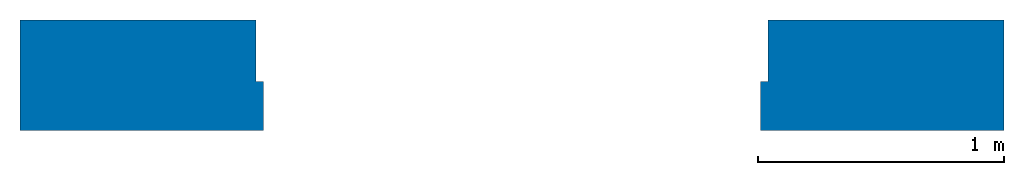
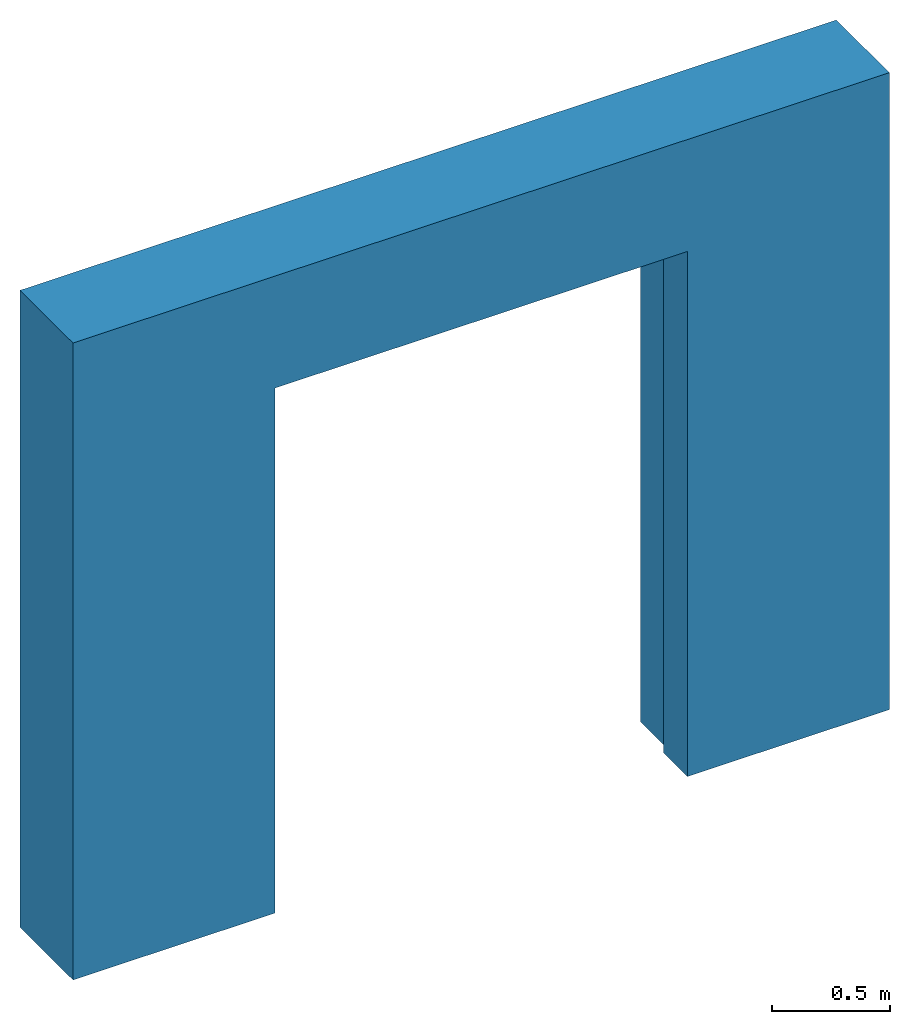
# One storey: 1 wall, 1 opening.
"""IFC4 building model written with IfcOpenShell, lengths in metres."""

from ifc_helpers import new_model, entity, si_unit, converted_unit, derived_unit, frame, frame_2d, origin, origin_with_axes, place, context, subcontext, project, spatial, polyline, rectangle, outline, extrude, material, layer, layer_set, layer_usage, element, save


model = new_model("IFC4")

# Units and contexts
model_context = context("Model", 3, precision=1e-05, world=origin())
body_context = subcontext(model_context, "Body", "Model", "MODEL_VIEW")
ifc_project = project(units=[si_unit("LENGTHUNIT", "METRE"), si_unit("AREAUNIT", "SQUARE_METRE"), si_unit("VOLUMEUNIT", "CUBIC_METRE"), si_unit("MASSUNIT", "GRAM", prefix="KILO"), converted_unit("PLANEANGLEUNIT", "DEGREE", entity("IfcPlaneAngleMeasure", 0.0174532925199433), si_unit("PLANEANGLEUNIT", "RADIAN"), dimensions=[0, 0, 0, 0, 0, 0, 0]), derived_unit("THERMALTRANSMITTANCEUNIT", [(si_unit("POWERUNIT", "WATT"), 1), (si_unit("THERMODYNAMICTEMPERATUREUNIT", "KELVIN"), -1), (si_unit("LENGTHUNIT", "METRE"), -2)]), derived_unit("VOLUMETRICFLOWRATEUNIT", [(si_unit("LENGTHUNIT", "METRE"), 3), (converted_unit("TIMEUNIT", "hour", entity("IfcTimeMeasure", 3600.0), si_unit("TIMEUNIT", "SECOND"), dimensions=[0, 0, 1, 0, 0, 0, 0]), -1), (si_unit("LENGTHUNIT", "METRE"), -1)])], contexts=[model_context])

# Site, building, storey
site_placement = place(None, origin())
site = spatial("IfcSite", under=ifc_project, at=site_placement, Name="Liegenschaft", CompositionType="ELEMENT")
building_placement = place(site_placement, origin())
building = spatial("IfcBuilding", under=site, at=building_placement, Name="Gebäude", CompositionType="ELEMENT")
storey_placement = place(building_placement, origin())
storey = spatial("IfcBuildingStorey", under=building, at=storey_placement, Name="Geschoss 02", CompositionType="ELEMENT", Elevation=0.0)

# Wall, opening
ifc_material_1 = material(Name="C20/25")
ifc_layer_1 = layer(ifc_material_1, 0.25)
ifc_material_2 = material()
ifc_layer_2 = layer(ifc_material_2, 0.2)
ifc_layer_set = layer_set([ifc_layer_1, ifc_layer_2])
ifc_layer_usage = layer_usage(ifc_layer_set, "AXIS2", "POSITIVE", -0.450000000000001)
wall_placement = place(storey_placement, frame((263.348222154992, 1.94253790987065, 0.3), z_axis=(0.0, 0.0, 1.0), x_axis=(-1.0, 1.13686837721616e-16, 0.0)))
wall = element("IfcWall", 1, at=wall_placement, inside=storey, material=ifc_layer_usage, Name="WA_01", context=body_context, shape_type="SweptSolid", body=[
    extrude(rectangle(XDim=4.0, YDim=0.450000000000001, at=frame_2d((2.0, 0.225000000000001), x_axis=(1.0, 0.0))), origin_with_axes(), (0.0, 0.0, 1.0), 3.3),
])
opening_placement = place(wall_placement, frame((0.96, 0.0, 0.0), z_axis=(0.0, 1.0, 0.0), x_axis=(0.0, 0.0, 1.0)))
element("IfcOpeningElement", 2, at=opening_placement, cuts=wall, Name="Türöffnung", ObjectType="Opening", context=body_context, shape_type="SweptSolid", body=[
    extrude(outline(polyline([(0.0, 2.08), (2.75, 2.08), (2.75, 0.0), (0.0, 0.0), (0.0, 2.08)])), origin_with_axes(), (0.0, 0.0, 1.0), 0.25),
    extrude(outline(polyline([(0.0, 2.02), (2.72, 2.02), (2.72, 0.0), (0.0, 0.0), (0.0, 2.02)])), frame((0.0, 0.03, 0.25), z_axis=(0.0, 0.0, 1.0), x_axis=(1.0, 0.0, 0.0)), (0.0, 0.0, 1.0), 0.200000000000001),
])

save(model, "model.ifc")
